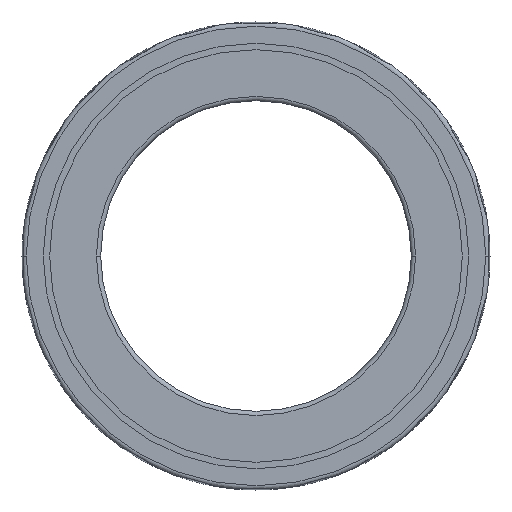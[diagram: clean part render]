
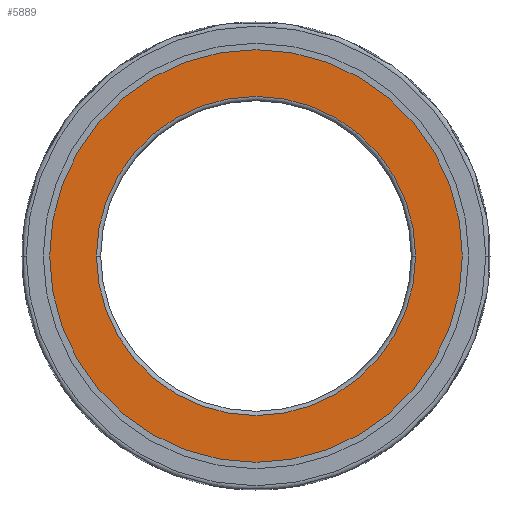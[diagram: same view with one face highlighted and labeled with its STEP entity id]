
A CAD part, front view. The second image highlights one B-rep face of the part: STEP entity #5889.
In plain terms, the highlighted planar face has unit normal (0, -1, 0).
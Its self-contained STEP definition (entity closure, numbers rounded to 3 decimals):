
#242 = VERTEX_POINT ( 'NONE', #1051 ) ;
#274 = VERTEX_POINT ( 'NONE', #15181 ) ;
#293 = CIRCLE ( 'NONE', #3334, 24.25 ) ;
#957 = PLANE ( 'NONE',  #12975 ) ;
#1046 = DIRECTION ( 'NONE',  ( 0., -1., 0. ) ) ;
#1051 = CARTESIAN_POINT ( 'NONE',  ( -1049.753, -8548.175, 0. ) ) ;
#1350 = DIRECTION ( 'NONE',  ( -1., 0., 0. ) ) ;
#1472 = CARTESIAN_POINT ( 'NONE',  ( -1012.253, -8548.175, 0. ) ) ;
#1733 = EDGE_CURVE ( 'NONE', #14649, #242, #6678, .T. ) ;
#2770 = DIRECTION ( 'NONE',  ( 1., 0., 0. ) ) ;
#3039 = EDGE_CURVE ( 'NONE', #9532, #274, #12249, .T. ) ;
#3161 = EDGE_LOOP ( 'NONE', ( #9598, #8716 ) ) ;
#3334 = AXIS2_PLACEMENT_3D ( 'NONE', #9820, #8631, #6409 ) ;
#3533 = ORIENTED_EDGE ( 'NONE', *, *, #8213, .T. ) ;
#3656 = DIRECTION ( 'NONE',  ( 0., 1., 0. ) ) ;
#4445 = DIRECTION ( 'NONE',  ( 0., -1., 0. ) ) ;
#4493 = CARTESIAN_POINT ( 'NONE',  ( -1031.003, -8548.175, 0. ) ) ;
#4545 = DIRECTION ( 'NONE',  ( 1., 0., 0. ) ) ;
#5515 = AXIS2_PLACEMENT_3D ( 'NONE', #4493, #4445, #4545 ) ;
#5889 = ADVANCED_FACE ( 'NONE', ( #6657, #15180 ), #957, .F. ) ;
#6409 = DIRECTION ( 'NONE',  ( 1., 0., 0. ) ) ;
#6657 = FACE_BOUND ( 'NONE', #3161, .T. ) ;
#6678 = CIRCLE ( 'NONE', #7758, 18.75 ) ;
#6790 = DIRECTION ( 'NONE',  ( 1., 0., 0. ) ) ;
#6897 = CARTESIAN_POINT ( 'NONE',  ( -1031.003, -8548.175, 0. ) ) ;
#7758 = AXIS2_PLACEMENT_3D ( 'NONE', #6897, #1046, #6790 ) ;
#8213 = EDGE_CURVE ( 'NONE', #274, #9532, #293, .T. ) ;
#8539 = CARTESIAN_POINT ( 'NONE',  ( -1031.003, -8548.175, 0. ) ) ;
#8631 = DIRECTION ( 'NONE',  ( 0., -1., 0. ) ) ;
#8716 = ORIENTED_EDGE ( 'NONE', *, *, #10833, .F. ) ;
#9410 = CARTESIAN_POINT ( 'NONE',  ( -1055.253, -8548.175, 0. ) ) ;
#9532 = VERTEX_POINT ( 'NONE', #12216 ) ;
#9598 = ORIENTED_EDGE ( 'NONE', *, *, #1733, .F. ) ;
#9820 = CARTESIAN_POINT ( 'NONE',  ( -1031.003, -8548.175, 0. ) ) ;
#10833 = EDGE_CURVE ( 'NONE', #242, #14649, #14677, .T. ) ;
#10861 = DIRECTION ( 'NONE',  ( 0., -1., 0. ) ) ;
#11606 = ORIENTED_EDGE ( 'NONE', *, *, #3039, .T. ) ;
#12214 = AXIS2_PLACEMENT_3D ( 'NONE', #8539, #10861, #2770 ) ;
#12216 = CARTESIAN_POINT ( 'NONE',  ( -1055.253, -8548.175, 0. ) ) ;
#12249 = CIRCLE ( 'NONE', #5515, 24.25 ) ;
#12975 = AXIS2_PLACEMENT_3D ( 'NONE', #9410, #3656, #1350 ) ;
#14649 = VERTEX_POINT ( 'NONE', #1472 ) ;
#14677 = CIRCLE ( 'NONE', #12214, 18.75 ) ;
#15030 = EDGE_LOOP ( 'NONE', ( #3533, #11606 ) ) ;
#15180 = FACE_OUTER_BOUND ( 'NONE', #15030, .T. ) ;
#15181 = CARTESIAN_POINT ( 'NONE',  ( -1006.753, -8548.175, 0. ) ) ;
